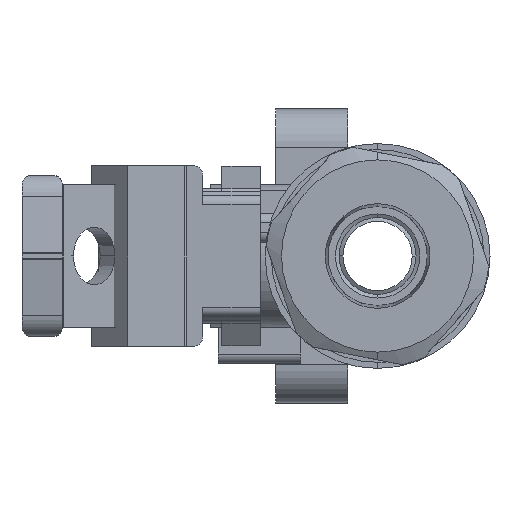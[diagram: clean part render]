
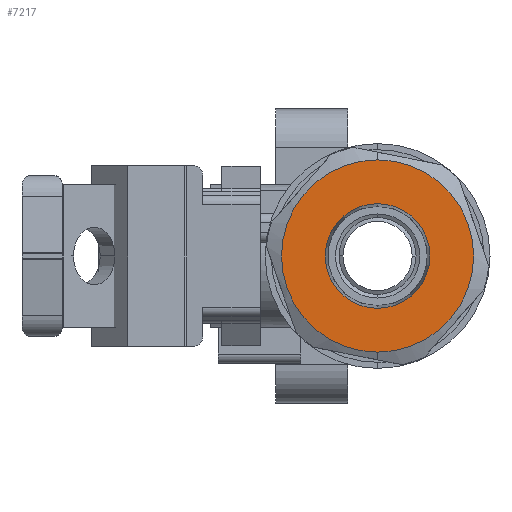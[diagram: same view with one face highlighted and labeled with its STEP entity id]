
A CAD part, left-side view. The second image highlights one B-rep face of the part: STEP entity #7217.
In plain terms, the highlighted planar face has unit normal (-1, 0, 0).
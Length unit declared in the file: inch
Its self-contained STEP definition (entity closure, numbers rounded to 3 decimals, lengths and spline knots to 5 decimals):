
#1015 = DIRECTION ( 'NONE',  ( -1., 0., 0. ) ) ;
#1973 = VERTEX_POINT ( 'NONE', #5787 ) ;
#3574 = DIRECTION ( 'NONE',  ( -1., 0., 0. ) ) ;
#3705 = ORIENTED_EDGE ( 'NONE', *, *, #8921, .T. ) ;
#4281 = FACE_BOUND ( 'NONE', #5640, .T. ) ;
#4340 = AXIS2_PLACEMENT_3D ( 'NONE', #10597, #23738, #12462 ) ;
#4586 = EDGE_LOOP ( 'NONE', ( #15260, #3705 ) ) ;
#4957 = CIRCLE ( 'NONE', #4340, 0.5 ) ;
#5136 = CIRCLE ( 'NONE', #17247, 0.5 ) ;
#5640 = EDGE_LOOP ( 'NONE', ( #8156, #8950 ) ) ;
#5787 = CARTESIAN_POINT ( 'NONE',  ( -1., 0., 0.27196 ) ) ;
#6703 = DIRECTION ( 'NONE',  ( -1., 0., 0. ) ) ;
#6731 = DIRECTION ( 'NONE',  ( -1., 0., 0. ) ) ;
#6950 = VERTEX_POINT ( 'NONE', #22012 ) ;
#7217 = ADVANCED_FACE ( 'NONE', ( #4281, #24290 ), #10409, .T. ) ;
#8156 = ORIENTED_EDGE ( 'NONE', *, *, #21742, .F. ) ;
#8518 = AXIS2_PLACEMENT_3D ( 'NONE', #14159, #6703, #19879 ) ;
#8921 = EDGE_CURVE ( 'NONE', #6950, #17982, #5136, .T. ) ;
#8950 = ORIENTED_EDGE ( 'NONE', *, *, #19773, .F. ) ;
#10409 = PLANE ( 'NONE',  #8518 ) ;
#10597 = CARTESIAN_POINT ( 'NONE',  ( -1., 0., 0. ) ) ;
#11617 = EDGE_CURVE ( 'NONE', #17982, #6950, #4957, .T. ) ;
#11740 = VERTEX_POINT ( 'NONE', #12631 ) ;
#12240 = CARTESIAN_POINT ( 'NONE',  ( -1., 0., 0. ) ) ;
#12462 = DIRECTION ( 'NONE',  ( 0., 0., 1. ) ) ;
#12631 = CARTESIAN_POINT ( 'NONE',  ( -1., 0., -0.27196 ) ) ;
#13265 = AXIS2_PLACEMENT_3D ( 'NONE', #17996, #6731, #19909 ) ;
#14128 = DIRECTION ( 'NONE',  ( 0., 0., 1. ) ) ;
#14159 = CARTESIAN_POINT ( 'NONE',  ( -1., -0.2, 0. ) ) ;
#14835 = CARTESIAN_POINT ( 'NONE',  ( -1., 0., 0. ) ) ;
#15260 = ORIENTED_EDGE ( 'NONE', *, *, #11617, .T. ) ;
#15707 = AXIS2_PLACEMENT_3D ( 'NONE', #14835, #3574, #16725 ) ;
#16725 = DIRECTION ( 'NONE',  ( 0., 0., 1. ) ) ;
#17247 = AXIS2_PLACEMENT_3D ( 'NONE', #12240, #1015, #14128 ) ;
#17982 = VERTEX_POINT ( 'NONE', #19808 ) ;
#17996 = CARTESIAN_POINT ( 'NONE',  ( -1., 0., 0. ) ) ;
#19773 = EDGE_CURVE ( 'NONE', #11740, #1973, #23726, .T. ) ;
#19808 = CARTESIAN_POINT ( 'NONE',  ( -1., 0., -0.5 ) ) ;
#19879 = DIRECTION ( 'NONE',  ( 0., 0., 1. ) ) ;
#19909 = DIRECTION ( 'NONE',  ( 0., 0., 1. ) ) ;
#21742 = EDGE_CURVE ( 'NONE', #1973, #11740, #22812, .T. ) ;
#22012 = CARTESIAN_POINT ( 'NONE',  ( -1., 0., 0.5 ) ) ;
#22812 = CIRCLE ( 'NONE', #15707, 0.27196 ) ;
#23726 = CIRCLE ( 'NONE', #13265, 0.27196 ) ;
#23738 = DIRECTION ( 'NONE',  ( -1., 0., 0. ) ) ;
#24290 = FACE_OUTER_BOUND ( 'NONE', #4586, .T. ) ;
